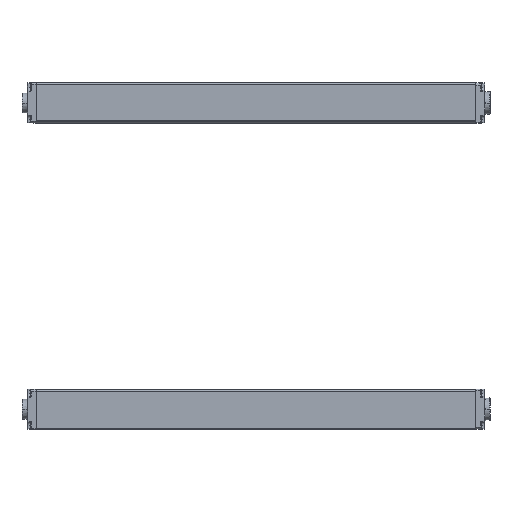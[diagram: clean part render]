
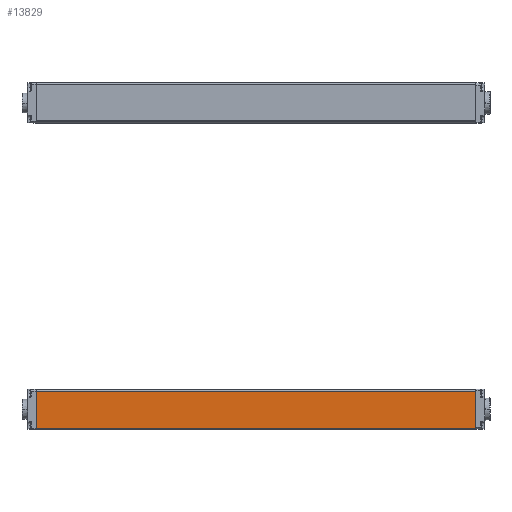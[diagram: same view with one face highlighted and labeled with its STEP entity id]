
A CAD part, left-side view. The second image highlights one B-rep face of the part: STEP entity #13829.
In plain terms, the highlighted planar face has unit normal (-1, 0, -0.009) as drawn and (1, 0, 0) by its records, which use the part's own axes.
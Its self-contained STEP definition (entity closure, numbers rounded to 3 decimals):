
#494 = LINE ( 'NONE', #6047, #6503 ) ;
#594 = VECTOR ( 'NONE', #1889, 1000. ) ;
#1596 = EDGE_CURVE ( 'NONE', #6026, #4304, #14256, .T. ) ;
#1757 = CARTESIAN_POINT ( 'NONE',  ( 15., 330., -16.9 ) ) ;
#1889 = DIRECTION ( 'NONE',  ( 0., 0., -1. ) ) ;
#2608 = CARTESIAN_POINT ( 'NONE',  ( 15., 0., 10.9 ) ) ;
#3171 = AXIS2_PLACEMENT_3D ( 'NONE', #4912, #10485, #16017 ) ;
#3943 = VECTOR ( 'NONE', #4158, 1000. ) ;
#4158 = DIRECTION ( 'NONE',  ( 0., 1., 0. ) ) ;
#4304 = VERTEX_POINT ( 'NONE', #4660 ) ;
#4660 = CARTESIAN_POINT ( 'NONE',  ( 15., 330., -16.693 ) ) ;
#4912 = CARTESIAN_POINT ( 'NONE',  ( 15., 330., -16.9 ) ) ;
#5120 = VERTEX_POINT ( 'NONE', #6133 ) ;
#5986 = ORIENTED_EDGE ( 'NONE', *, *, #8279, .T. ) ;
#6026 = VERTEX_POINT ( 'NONE', #6739 ) ;
#6047 = CARTESIAN_POINT ( 'NONE',  ( 15., 330., 10.9 ) ) ;
#6133 = CARTESIAN_POINT ( 'NONE',  ( 15., 0., -16.693 ) ) ;
#6503 = VECTOR ( 'NONE', #11619, 1000. ) ;
#6698 = ORIENTED_EDGE ( 'NONE', *, *, #1596, .F. ) ;
#6739 = CARTESIAN_POINT ( 'NONE',  ( 15., 330., 10.9 ) ) ;
#6860 = VERTEX_POINT ( 'NONE', #2608 ) ;
#6927 = EDGE_CURVE ( 'NONE', #5120, #4304, #11101, .T. ) ;
#7325 = DIRECTION ( 'NONE',  ( 0., 0., -1. ) ) ;
#8153 = ORIENTED_EDGE ( 'NONE', *, *, #16883, .T. ) ;
#8279 = EDGE_CURVE ( 'NONE', #6026, #6860, #494, .T. ) ;
#8836 = LINE ( 'NONE', #14391, #594 ) ;
#10485 = DIRECTION ( 'NONE',  ( -1., 0., 0. ) ) ;
#11101 = LINE ( 'NONE', #16622, #3943 ) ;
#11481 = VECTOR ( 'NONE', #7325, 1000. ) ;
#11619 = DIRECTION ( 'NONE',  ( 0., -1., 0. ) ) ;
#11806 = ORIENTED_EDGE ( 'NONE', *, *, #6927, .T. ) ;
#11847 = FACE_OUTER_BOUND ( 'NONE', #14903, .T. ) ;
#13829 = ADVANCED_FACE ( 'NONE', ( #11847 ), #17389, .F. ) ;
#14256 = LINE ( 'NONE', #1757, #11481 ) ;
#14391 = CARTESIAN_POINT ( 'NONE',  ( 15., 0., -16.9 ) ) ;
#14903 = EDGE_LOOP ( 'NONE', ( #8153, #11806, #6698, #5986 ) ) ;
#16017 = DIRECTION ( 'NONE',  ( 0., 0., 1. ) ) ;
#16622 = CARTESIAN_POINT ( 'NONE',  ( 15., 330., -16.693 ) ) ;
#16883 = EDGE_CURVE ( 'NONE', #6860, #5120, #8836, .T. ) ;
#17389 = PLANE ( 'NONE',  #3171 ) ;
